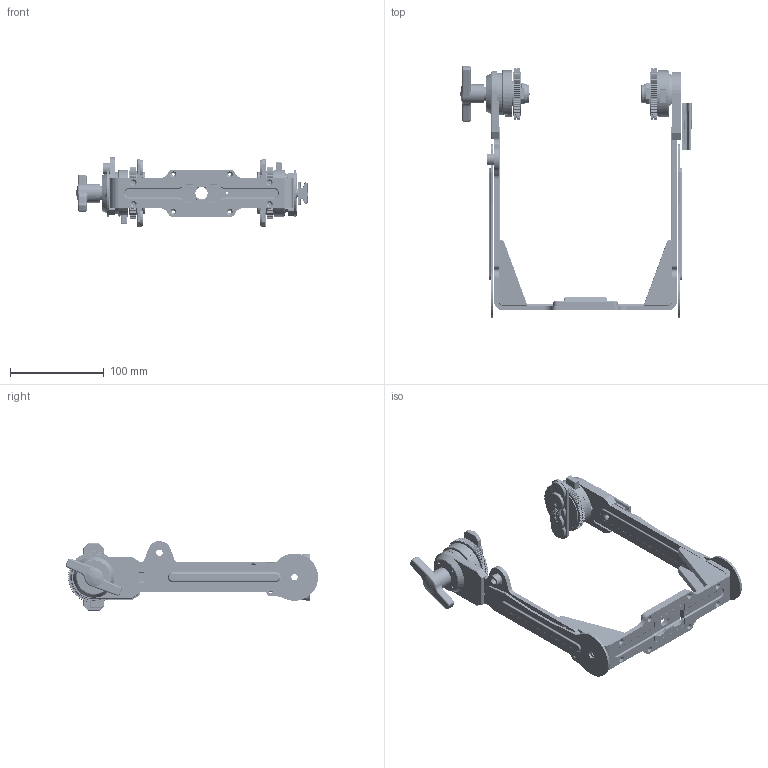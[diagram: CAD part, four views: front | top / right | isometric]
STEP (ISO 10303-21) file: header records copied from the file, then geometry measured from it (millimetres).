
FILE_DESCRIPTION(('FreeCAD Model'),'2;1');
FILE_NAME('Open CASCADE Shape Model','2023-10-11T09:47:08',( 'Lukas Balthasar Pank'),('Astera LED Technology GmbH'), 'Open CASCADE STEP processor 7.6','FreeCAD','Unknown');
FILE_SCHEMA(('AUTOMOTIVE_DESIGN { 1 0 10303 214 1 1 1 1 }'));
Length unit declared in the file: millimetre
Products named in the file (22): AF80_PlutoFresnel_Yoke_3D-File; AF80-YKB-prt; U Bracket-Assem; U-shaped bracket; bracket left; bracket right; 29555-airline track; 29500-Support block; 27283-hand bracket-left; 28118-gland; 27247-T-shaped; 29563-V-LOCK slider-left; 29564-V-LOCK slider-right; 27831-brake disc; 59228-Connect pin-single-assem; 27284-hand bracket-right
Assembly tree (21 placements, depth 4):
  AF80_PlutoFresnel_Yoke_3D-File
    AF80-YKB-prt
    AF80-YKB-prt
    U Bracket-Assem
      U-shaped bracket
        U-shaped bracket
        U-shaped bracket
      bracket left
      bracket right
      29555-airline track
      29500-Support block
      29500-Support block
      27283-hand bracket-left
      28118-gland
      28118-gland
      27247-T-shaped
      29563-V-LOCK slider-left
      29564-V-LOCK slider-right
      27831-brake disc
      59228-Connect pin-single-assem
        59228-Connect pin-single-assem
      27284-hand bracket-right
Bounding box: 246.74 x 268.92 x 74.5 mm (x, y, z)
Volume: 350841.3 mm3; surface area: 183522.1 mm2
Topology: 18 solids, 18 shells, 5186 faces, 13735 edges, 8884 vertices
Faces by surface type: plane 2577, cylinder 1619, cone 498, bspline 269, torus 119, sphere 92, revolution 12
Entity records: 220644 total; most frequent: CARTESIAN_POINT 92489, ORIENTED_EDGE 27350, DIRECTION 23849, EDGE_CURVE 13675, VERTEX_POINT 8884, LINE 8095, VECTOR 8095, AXIS2_PLACEMENT_3D 7871
